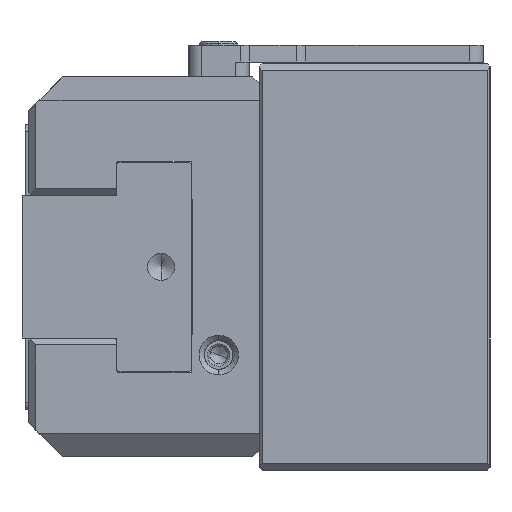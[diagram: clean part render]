
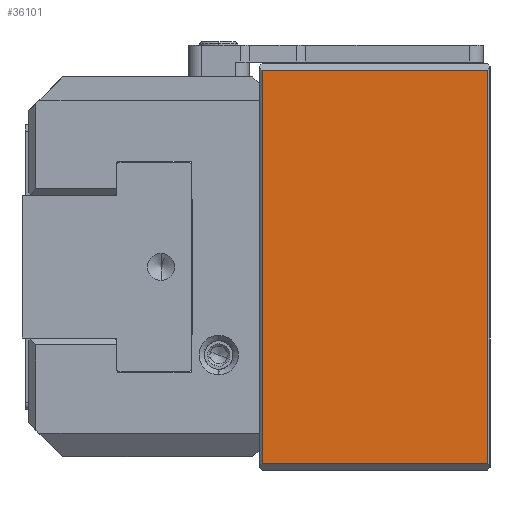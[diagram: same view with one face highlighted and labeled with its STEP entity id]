
A CAD part, left-side view. The second image highlights one B-rep face of the part: STEP entity #36101.
In plain terms, the highlighted planar face has unit normal (-1, 0, 0).
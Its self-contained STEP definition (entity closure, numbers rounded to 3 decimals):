
#1070 = LINE ( 'NONE', #56001, #23111 ) ;
#2732 = ORIENTED_EDGE ( 'NONE', *, *, #5656, .T. ) ;
#4084 = DIRECTION ( 'NONE',  ( 0., 0., -1. ) ) ;
#4241 = CARTESIAN_POINT ( 'NONE',  ( -50., -34., 29. ) ) ;
#4585 = CARTESIAN_POINT ( 'NONE',  ( -50., -34., -29. ) ) ;
#5100 = PLANE ( 'NONE',  #21495 ) ;
#5656 = EDGE_CURVE ( 'NONE', #23227, #7557, #1070, .T. ) ;
#7557 = VERTEX_POINT ( 'NONE', #36317 ) ;
#8875 = EDGE_CURVE ( 'NONE', #23227, #53386, #50418, .T. ) ;
#10363 = CARTESIAN_POINT ( 'NONE',  ( -50., -33.6, -29. ) ) ;
#19269 = DIRECTION ( 'NONE',  ( 0., 1., 0. ) ) ;
#21495 = AXIS2_PLACEMENT_3D ( 'NONE', #4241, #57712, #44824 ) ;
#22897 = CARTESIAN_POINT ( 'NONE',  ( -50., -0.4, -29. ) ) ;
#23111 = VECTOR ( 'NONE', #37213, 1000. ) ;
#23227 = VERTEX_POINT ( 'NONE', #10363 ) ;
#27574 = VECTOR ( 'NONE', #37768, 1000. ) ;
#29913 = EDGE_CURVE ( 'NONE', #53330, #53386, #45240, .T. ) ;
#30063 = ORIENTED_EDGE ( 'NONE', *, *, #39367, .T. ) ;
#31109 = CARTESIAN_POINT ( 'NONE',  ( -50., -0.4, -29. ) ) ;
#31709 = ORIENTED_EDGE ( 'NONE', *, *, #8875, .F. ) ;
#34397 = CARTESIAN_POINT ( 'NONE',  ( -50., -0.4, 29. ) ) ;
#36101 = ADVANCED_FACE ( 'NONE', ( #40387 ), #5100, .T. ) ;
#36317 = CARTESIAN_POINT ( 'NONE',  ( -50., -33.6, 29. ) ) ;
#37213 = DIRECTION ( 'NONE',  ( 0., 0., 1. ) ) ;
#37768 = DIRECTION ( 'NONE',  ( 0., 1., 0. ) ) ;
#39367 = EDGE_CURVE ( 'NONE', #7557, #53330, #52169, .T. ) ;
#40387 = FACE_OUTER_BOUND ( 'NONE', #45736, .T. ) ;
#43082 = CARTESIAN_POINT ( 'NONE',  ( -50., -34., 29. ) ) ;
#44824 = DIRECTION ( 'NONE',  ( 0., 0., 1. ) ) ;
#45240 = LINE ( 'NONE', #31109, #52374 ) ;
#45736 = EDGE_LOOP ( 'NONE', ( #31709, #2732, #30063, #46773 ) ) ;
#46773 = ORIENTED_EDGE ( 'NONE', *, *, #29913, .T. ) ;
#48329 = VECTOR ( 'NONE', #19269, 1000. ) ;
#50418 = LINE ( 'NONE', #4585, #48329 ) ;
#52169 = LINE ( 'NONE', #43082, #27574 ) ;
#52374 = VECTOR ( 'NONE', #4084, 1000. ) ;
#53330 = VERTEX_POINT ( 'NONE', #34397 ) ;
#53386 = VERTEX_POINT ( 'NONE', #22897 ) ;
#56001 = CARTESIAN_POINT ( 'NONE',  ( -50., -33.6, 29. ) ) ;
#57712 = DIRECTION ( 'NONE',  ( -1., 0., 0. ) ) ;
